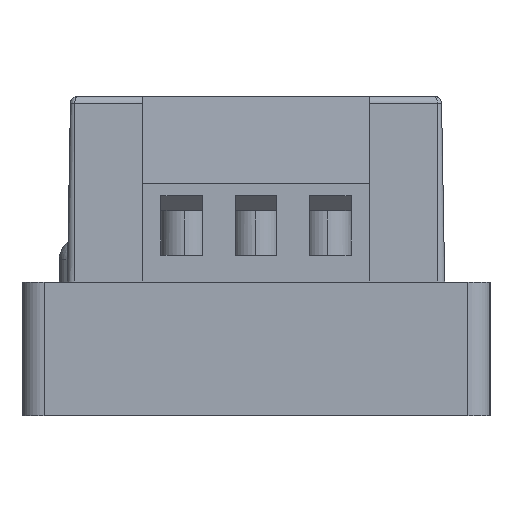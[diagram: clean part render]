
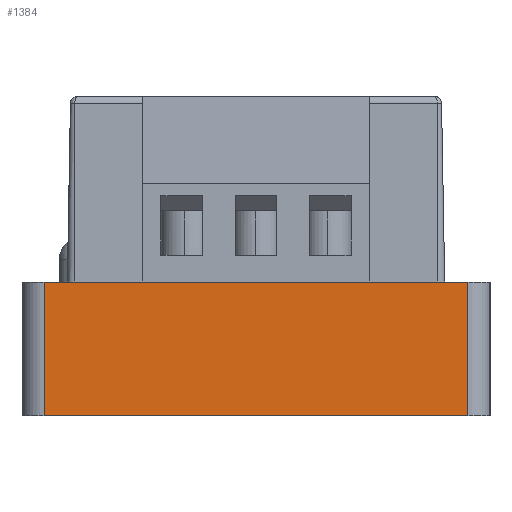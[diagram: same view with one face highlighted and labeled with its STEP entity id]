
A CAD part, left-side view. The second image highlights one B-rep face of the part: STEP entity #1384.
In plain terms, the highlighted planar face has unit normal (-1, 0, 0).
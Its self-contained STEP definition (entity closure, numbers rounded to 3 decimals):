
#1177=PLANE('',#4298);
#1384=ADVANCED_FACE('',(#1617),#1177,.F.);
#1617=FACE_OUTER_BOUND('',#1803,.T.);
#1803=EDGE_LOOP('',(#3010,#3011,#3012,#3013));
#2113=LINE('',#5981,#2359);
#2114=LINE('',#5984,#2360);
#2115=LINE('',#5986,#2361);
#2116=LINE('',#5988,#2362);
#2359=VECTOR('',#5074,1.);
#2360=VECTOR('',#5075,1.);
#2361=VECTOR('',#5076,1.);
#2362=VECTOR('',#5077,1.);
#3010=ORIENTED_EDGE('',*,*,#3828,.F.);
#3011=ORIENTED_EDGE('',*,*,#3829,.T.);
#3012=ORIENTED_EDGE('',*,*,#3830,.T.);
#3013=ORIENTED_EDGE('',*,*,#3831,.T.);
#3448=VERTEX_POINT('',#5982);
#3449=VERTEX_POINT('',#5983);
#3450=VERTEX_POINT('',#5985);
#3451=VERTEX_POINT('',#5987);
#3828=EDGE_CURVE('',#3448,#3449,#2113,.T.);
#3829=EDGE_CURVE('',#3448,#3450,#2114,.T.);
#3830=EDGE_CURVE('',#3450,#3451,#2115,.T.);
#3831=EDGE_CURVE('',#3451,#3449,#2116,.T.);
#4298=AXIS2_PLACEMENT_3D('',#5989,#5078,#5079);
#5074=DIRECTION('',(0.,-1.,0.));
#5075=DIRECTION('',(0.,0.,-1.));
#5076=DIRECTION('',(0.,-1.,0.));
#5077=DIRECTION('',(0.,0.,1.));
#5078=DIRECTION('',(1.,0.,0.));
#5079=DIRECTION('',(0.,-1.,0.));
#5981=CARTESIAN_POINT('',(-38.,-15.75,0.));
#5982=CARTESIAN_POINT('',(-38.,14.25,0.));
#5983=CARTESIAN_POINT('',(-38.,-14.25,0.));
#5984=CARTESIAN_POINT('',(-38.,14.25,0.));
#5985=CARTESIAN_POINT('',(-38.,14.25,-9.));
#5986=CARTESIAN_POINT('',(-38.,-15.75,-9.));
#5987=CARTESIAN_POINT('',(-38.,-14.25,-9.));
#5988=CARTESIAN_POINT('',(-38.,-14.25,0.));
#5989=CARTESIAN_POINT('',(-38.,-15.75,0.));
